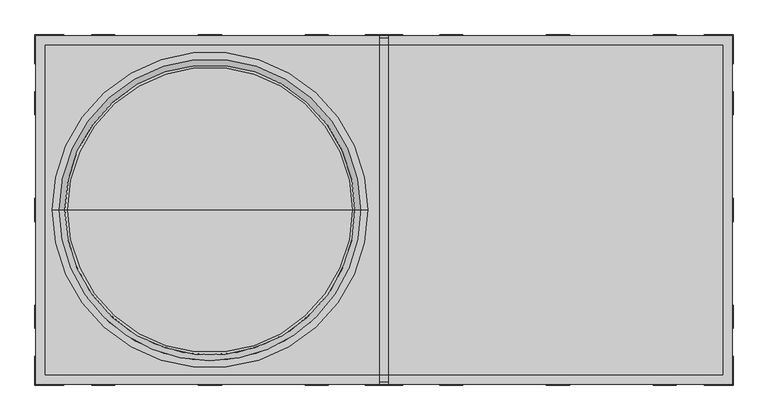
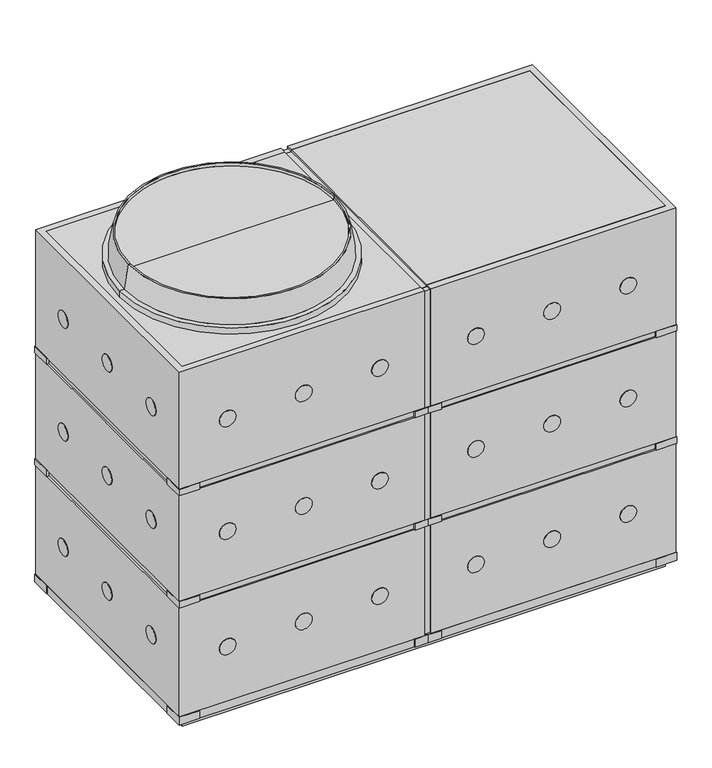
"""IFC4 building model written with IfcOpenShell, lengths in millimetres: cable carrier fitting geometry, КНС_КолодецПластиковыйСЛюком_1500-750-1125_281500-281500V0_DKC : Колодец кабельный 1500×750×1125_281500."""

from ifc_helpers import new_model, si_unit, point, frame, frame_2d, origin, place, context, project, spatial, polyline, circle_curve, trimmed, segment, composite_curve, outline, extrude, faceted_brep, source, transform, mapped, element, save
from ifc_brep_helpers import plane_surface, cylinder_surface, revolved_surface, advanced_brep


def cable_carrier_fitting_457583df(model_context):
    return source(origin(), model_context, "Body", "SolidModel", [
        extrude(outline(polyline([(1125.0, -730.0), (1125.0, 730.0), (1150.0, 730.0), (1150.0, 10.0), (1145.0, 10.0), (1145.0, -10.0), (1150.0, -10.0), (1150.0, -730.0), (1125.0, -730.0)])), frame((0.0, -355.0, 0.0), z_axis=(0.0, 1.0, 0.0), x_axis=(0.0, 0.0, 1.0)), (0.0, 0.0, 1.0), 710.0),
        advanced_brep(
        [(-375.0, 0.0, 1150.0), (-715.0, 0.0, 1150.0), (-35.0, 0.0, 1150.0), (-67.5121518, 0.0, 1234.0), (-682.4878482, 0.0, 1234.0), (-375.0, 0.0, 1234.0), (-67.5121518, 0.0, 1244.0), (-682.4878482, 0.0, 1244.0), (-62.5121518, 0.0, 1244.0), (-687.4878482, 0.0, 1244.0), (-50.0, 0.0, 1170.0), (-700.0, 0.0, 1170.0), (-35.0, 0.0, 1170.0), (-715.0, 0.0, 1170.0)],
        [
            (0, 1),
            (1, 2, circle_curve(frame((-375.0, 0.0, 1150.0), z_axis=(0.0, 0.0, -1.0), x_axis=(-1.0, 0.0, 0.0)), 340.0)),
            (2, 0),
            (2, 1, circle_curve(frame((-375.0, 0.0, 1150.0), z_axis=(0.0, 0.0, -1.0), x_axis=(-1.0, 0.0, 0.0)), 340.0)),
            (3, 4, circle_curve(frame((-375.0, 0.0, 1234.0), z_axis=(0.0, 0.0, 1.0), x_axis=(-1.0, 0.0, 0.0)), 307.4878482)),
            (4, 5),
            (5, 3),
            (4, 3, circle_curve(frame((-375.0, 0.0, 1234.0), z_axis=(0.0, 0.0, 1.0), x_axis=(-1.0, 0.0, 0.0)), 307.4878482)),
            (6, 7, circle_curve(frame((-375.0, 0.0, 1244.0), z_axis=(0.0, 0.0, 1.0), x_axis=(-1.0, 0.0, 0.0)), 307.4878482)),
            (7, 4),
            (3, 6),
            (7, 6, circle_curve(frame((-375.0, 0.0, 1244.0), z_axis=(0.0, 0.0, 1.0), x_axis=(-1.0, 0.0, 0.0)), 307.4878482)),
            (8, 9, circle_curve(frame((-375.0, 0.0, 1244.0), z_axis=(0.0, 0.0, 1.0), x_axis=(-1.0, 0.0, 0.0)), 312.4878482)),
            (9, 7),
            (6, 8),
            (9, 8, circle_curve(frame((-375.0, 0.0, 1244.0), z_axis=(0.0, 0.0, 1.0), x_axis=(-1.0, 0.0, 0.0)), 312.4878482)),
            (10, 11, circle_curve(frame((-375.0, 0.0, 1170.0), z_axis=(0.0, 0.0, 1.0), x_axis=(-1.0, 0.0, 0.0)), 325.0)),
            (11, 9),
            (8, 10),
            (11, 10, circle_curve(frame((-375.0, 0.0, 1170.0), z_axis=(0.0, 0.0, 1.0), x_axis=(-1.0, 0.0, 0.0)), 325.0)),
            (12, 13, circle_curve(frame((-375.0, 0.0, 1170.0), z_axis=(0.0, 0.0, 1.0), x_axis=(-1.0, 0.0, 0.0)), 340.0)),
            (13, 11),
            (10, 12),
            (13, 12, circle_curve(frame((-375.0, 0.0, 1170.0), z_axis=(0.0, 0.0, 1.0), x_axis=(-1.0, 0.0, 0.0)), 340.0)),
            (1, 13),
            (12, 2),
        ],
        [
            plane_surface(frame((-375.0, 0.0, 1150.0), z_axis=(0.0, 0.0, -1.0), x_axis=(-1.0, 0.0, 0.0))),
            plane_surface(frame((-375.0, 0.0, 1234.0), z_axis=(0.0, 0.0, 1.0), x_axis=(-1.0, 0.0, 0.0))),
            revolved_surface(polyline([(-682.4878481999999, 0.0, 1234.0), (-682.4878481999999, 0.0, 1244.0)]), (-375.0, 0.0, 2214.3150031), (0.0, 0.0, -1.0)),
            plane_surface(frame((-375.0, 0.0, 1244.0), z_axis=(0.0, 0.0, 1.0), x_axis=(-1.0, 0.0, 0.0))),
            revolved_surface(polyline([(-687.4878482, 0.0, 1244.0), (-700.0, 0.0, 1170.0)]), (-375.0, 0.0, 2214.3150031), (0.0, 0.0, -1.0)),
            plane_surface(frame((-375.0, 0.0, 1170.0), z_axis=(0.0, 0.0, 1.0), x_axis=(-1.0, 0.0, 0.0))),
            cylinder_surface(frame((-375.0, 0.0, 2214.3150031), z_axis=(0.0, 0.0, -1.0), x_axis=(-1.0, 0.0, 0.0)), 340.0),
        ],
        [
            (0, [[1, 2, 3]]),
            (0, [[-3, 4, -1]]),
            (1, [[5, 6, 7]]),
            (1, [[8, -7, -6]]),
            (2, [[9, 10, -5, 11]]),
            (2, [[12, -11, -8, -10]]),
            (3, [[13, 14, -9, 15]]),
            (3, [[16, -15, -12, -14]]),
            (4, [[17, 18, -13, 19]]),
            (4, [[20, -19, -16, -18]]),
            (5, [[21, 22, -17, 23]]),
            (5, [[24, -23, -20, -22]]),
            (6, [[-2, 25, -21, 26]]),
            (6, [[-4, -26, -24, -25]]),
        ],
    ),
        faceted_brep([(-750.0, 375.0, 1150.0), (-750.0, -375.0, 1150.0), (-10.0, -375.0, 1150.0), (-10.0, -355.0, 1150.0), (-730.0, -355.0, 1150.0), (-730.0, 355.0, 1150.0), (-10.0, 355.0, 1150.0), (-10.0, 375.0, 1150.0), (750.0, -375.0, 1150.0), (750.0, 375.0, 1150.0), (10.0, 375.0, 1150.0), (10.0, 355.0, 1150.0), (730.0, 355.0, 1150.0), (730.0, -355.0, 1150.0), (10.0, -355.0, 1150.0), (10.0, -375.0, 1150.0), (750.0, 375.0, 50.0), (750.0, -375.0, 50.0), (10.0, -375.0, 50.0), (10.0, -370.0, 50.0), (-10.0, -370.0, 50.0), (-10.0, -375.0, 50.0), (-750.0, -375.0, 50.0), (-750.0, 375.0, 50.0), (-10.0, 375.0, 50.0), (-10.0, 370.0, 50.0), (10.0, 370.0, 50.0), (10.0, 375.0, 50.0), (730.0, 355.0, 50.0), (-730.0, 355.0, 50.0), (-730.0, -355.0, 50.0), (730.0, -355.0, 50.0), (750.0, 375.0, 398.3333333), (10.0, 375.0, 398.3333333), (-750.0, 375.0, 398.3333333), (-10.0, 375.0, 398.3333333), (750.0, 375.0, 756.6666667), (750.0, 375.0, 418.3333333), (10.0, 375.0, 418.3333333), (10.0, 375.0, 756.6666667), (750.0, 375.0, 776.6666667), (10.0, 375.0, 776.6666667), (-750.0, 375.0, 418.3333333), (-750.0, 375.0, 756.6666667), (-10.0, 375.0, 756.6666667), (-10.0, 375.0, 418.3333333), (-750.0, 375.0, 776.6666667), (-10.0, 375.0, 776.6666667), (-750.0, -375.0, 776.6666667), (-750.0, -375.0, 398.3333333), (-750.0, -375.0, 418.3333333), (-750.0, -375.0, 756.6666667), (-10.0, -375.0, 776.6666667), (-10.0, -375.0, 398.3333333), (-10.0, -375.0, 418.3333333), (-10.0, -375.0, 756.6666667), (750.0, -375.0, 398.3333333), (10.0, -375.0, 398.3333333), (750.0, -375.0, 418.3333333), (750.0, -375.0, 756.6666667), (10.0, -375.0, 756.6666667), (10.0, -375.0, 418.3333333), (750.0, -375.0, 776.6666667), (10.0, -375.0, 776.6666667), (-745.0, 370.0, 398.3333333), (-745.0, -370.0, 398.3333333), (-745.0, -370.0, 418.3333333), (-745.0, 370.0, 418.3333333), (10.0, -370.0, 1145.0), (-10.0, -370.0, 1145.0), (-10.0, -370.0, 776.6666667), (-745.0, -370.0, 776.6666667), (-745.0, -370.0, 756.6666667), (-10.0, -370.0, 756.6666667), (-10.0, -370.0, 418.3333333), (-10.0, -370.0, 398.3333333), (10.0, -370.0, 398.3333333), (745.0, -370.0, 398.3333333), (745.0, -370.0, 418.3333333), (10.0, -370.0, 418.3333333), (10.0, -370.0, 756.6666667), (745.0, -370.0, 756.6666667), (745.0, -370.0, 776.6666667), (10.0, -370.0, 776.6666667), (745.0, 370.0, 398.3333333), (745.0, 370.0, 418.3333333), (-10.0, 370.0, 1145.0), (10.0, 370.0, 1145.0), (10.0, 370.0, 776.6666667), (745.0, 370.0, 776.6666667), (745.0, 370.0, 756.6666667), (10.0, 370.0, 756.6666667), (10.0, 370.0, 418.3333333), (10.0, 370.0, 398.3333333), (-10.0, 370.0, 398.3333333), (-10.0, 370.0, 418.3333333), (-10.0, 370.0, 756.6666667), (-745.0, 370.0, 756.6666667), (-745.0, 370.0, 776.6666667), (-10.0, 370.0, 776.6666667), (10.0, 355.0, 1145.0), (-10.0, 355.0, 1145.0), (-10.0, -355.0, 1145.0), (10.0, -355.0, 1145.0)], [[[0, 1, 2, 3, 4, 5, 6, 7]], [[8, 9, 10, 11, 12, 13, 14, 15]], [[16, 17, 18, 19, 20, 21, 22, 23, 24, 25, 26, 27], [28, 29, 30, 31]], [[32, 16, 27, 33]], [[23, 34, 35, 24]], [[36, 37, 38, 39]], [[9, 40, 41, 10]], [[42, 43, 44, 45]], [[46, 0, 7, 47]], [[1, 0, 46, 48]], [[23, 22, 49, 34]], [[42, 50, 51, 43]], [[1, 48, 52, 2]], [[49, 22, 21, 53]], [[51, 50, 54, 55]], [[17, 56, 57, 18]], [[58, 59, 60, 61]], [[62, 8, 15, 63]], [[9, 8, 62, 40]], [[17, 16, 32, 56]], [[58, 37, 36, 59]], [[64, 65, 66, 67]], [[68, 69, 70, 71, 72, 73, 74, 66, 65, 75, 20, 19, 76, 77, 78, 79, 80, 81, 82, 83]], [[78, 77, 84, 85]], [[86, 87, 88, 89, 90, 91, 92, 85, 84, 93, 26, 25, 94, 64, 67, 95, 96, 97, 98, 99]], [[65, 64, 94, 35, 34, 49, 53, 75]], [[84, 77, 76, 57, 56, 32, 33, 93]], [[67, 66, 74, 54, 50, 42, 45, 95]], [[78, 85, 92, 38, 37, 58, 61, 79]], [[5, 29, 28, 12, 11, 100, 101, 6]], [[29, 5, 4, 30]], [[30, 4, 3, 102, 103, 14, 13, 31]], [[12, 28, 31, 13]], [[97, 72, 71, 98]], [[82, 81, 90, 89]], [[72, 97, 96, 44, 43, 51, 55, 73]], [[90, 81, 80, 60, 59, 36, 39, 91]], [[98, 71, 70, 52, 48, 46, 47, 99]], [[82, 89, 88, 41, 40, 62, 63, 83]], [[76, 19, 18, 57]], [[80, 79, 61, 60]], [[68, 83, 63, 15, 14, 103]], [[88, 87, 100, 11, 10, 41]], [[92, 91, 39, 38]], [[26, 93, 33, 27]], [[70, 69, 102, 3, 2, 52]], [[74, 73, 55, 54]], [[20, 75, 53, 21]], [[94, 25, 24, 35]], [[96, 95, 45, 44]], [[86, 99, 47, 7, 6, 101]], [[69, 68, 103, 102]], [[87, 86, 101, 100]]]),
        faceted_brep([(750.0, 375.0, 50.0), (-750.0, 375.0, 50.0), (-750.0, -375.0, 50.0), (750.0, -375.0, 50.0), (-730.0, 355.0, 0.0), (730.0, 355.0, 0.0), (730.0, -355.0, 0.0), (-730.0, -355.0, 0.0), (750.0, 375.0, 25.0), (-750.0, 375.0, 25.0), (-750.0, -375.0, 25.0), (750.0, -375.0, 25.0), (-730.0, 355.0, 25.0), (730.0, 355.0, 25.0), (730.0, -355.0, 25.0), (-730.0, -355.0, 25.0)], [[[0, 1, 2, 3]], [[4, 5, 6, 7]], [[1, 0, 8, 9]], [[2, 1, 9, 10]], [[3, 2, 10, 11]], [[0, 3, 11, 8]], [[12, 13, 5, 4]], [[5, 13, 14, 6]], [[6, 14, 15, 7]], [[9, 8, 11, 10], [13, 12, 15, 14]], [[12, 4, 7, 15]]]),
        extrude(outline(composite_curve([segment(trimmed(circle_curve(frame_2d((952.0833333, -605.0)), 25.0), [point((952.0833333, -580.0))], [point((952.0833333, -630.0))], False, "CARTESIAN"), True, "CONTINUOUS"), segment(trimmed(circle_curve(frame_2d((952.0833333, -605.0)), 25.0), [point((952.0833333, -630.0))], [point((952.0833333, -580.0))], False, "CARTESIAN"), True, "CONTINUOUS")], self_intersect=False)), frame((0.0, 375.0, 0.0), z_axis=(0.0, 1.0, 0.0), x_axis=(0.0, 0.0, 1.0)), (0.0, 0.0, 1.0), 2.0),
        extrude(outline(composite_curve([segment(trimmed(circle_curve(frame_2d((952.0833333, -375.0)), 25.0), [point((952.0833333, -350.0))], [point((952.0833333, -400.0))], False, "CARTESIAN"), True, "CONTINUOUS"), segment(trimmed(circle_curve(frame_2d((952.0833333, -375.0)), 25.0), [point((952.0833333, -400.0))], [point((952.0833333, -350.0))], False, "CARTESIAN"), True, "CONTINUOUS")], self_intersect=False)), frame((0.0, 375.0, 0.0), z_axis=(0.0, 1.0, 0.0), x_axis=(0.0, 0.0, 1.0)), (0.0, 0.0, 1.0), 2.0),
        extrude(outline(composite_curve([segment(trimmed(circle_curve(frame_2d((952.0833333, -145.0)), 25.0), [point((952.0833333, -120.0))], [point((952.0833333, -170.0))], False, "CARTESIAN"), True, "CONTINUOUS"), segment(trimmed(circle_curve(frame_2d((952.0833333, -145.0)), 25.0), [point((952.0833333, -170.0))], [point((952.0833333, -120.0))], False, "CARTESIAN"), True, "CONTINUOUS")], self_intersect=False)), frame((0.0, 375.0, 0.0), z_axis=(0.0, 1.0, 0.0), x_axis=(0.0, 0.0, 1.0)), (0.0, 0.0, 1.0), 2.0),
        extrude(outline(composite_curve([segment(trimmed(circle_curve(frame_2d((952.0833333, 145.0)), 25.0), [point((952.0833333, 170.0))], [point((952.0833333, 120.0))], False, "CARTESIAN"), True, "CONTINUOUS"), segment(trimmed(circle_curve(frame_2d((952.0833333, 145.0)), 25.0), [point((952.0833333, 120.0))], [point((952.0833333, 170.0))], False, "CARTESIAN"), True, "CONTINUOUS")], self_intersect=False)), frame((0.0, 375.0, 0.0), z_axis=(0.0, 1.0, 0.0), x_axis=(0.0, 0.0, 1.0)), (0.0, 0.0, 1.0), 2.0),
        extrude(outline(composite_curve([segment(trimmed(circle_curve(frame_2d((952.0833333, 375.0)), 25.0), [point((952.0833333, 400.0))], [point((952.0833333, 350.0))], False, "CARTESIAN"), True, "CONTINUOUS"), segment(trimmed(circle_curve(frame_2d((952.0833333, 375.0)), 25.0), [point((952.0833333, 350.0))], [point((952.0833333, 400.0))], False, "CARTESIAN"), True, "CONTINUOUS")], self_intersect=False)), frame((0.0, 375.0, 0.0), z_axis=(0.0, 1.0, 0.0), x_axis=(0.0, 0.0, 1.0)), (0.0, 0.0, 1.0), 2.0),
        extrude(outline(composite_curve([segment(trimmed(circle_curve(frame_2d((952.0833333, 605.0)), 25.0), [point((952.0833333, 630.0))], [point((952.0833333, 580.0))], False, "CARTESIAN"), True, "CONTINUOUS"), segment(trimmed(circle_curve(frame_2d((952.0833333, 605.0)), 25.0), [point((952.0833333, 580.0))], [point((952.0833333, 630.0))], False, "CARTESIAN"), True, "CONTINUOUS")], self_intersect=False)), frame((0.0, 375.0, 0.0), z_axis=(0.0, 1.0, 0.0), x_axis=(0.0, 0.0, 1.0)), (0.0, 0.0, 1.0), 2.0),
        extrude(outline(composite_curve([segment(trimmed(circle_curve(frame_2d((592.5, -605.0)), 25.0), [point((592.5, -580.0))], [point((592.5, -630.0))], False, "CARTESIAN"), True, "CONTINUOUS"), segment(trimmed(circle_curve(frame_2d((592.5, -605.0)), 25.0), [point((592.5, -630.0))], [point((592.5, -580.0))], False, "CARTESIAN"), True, "CONTINUOUS")], self_intersect=False)), frame((0.0, 375.0, 0.0), z_axis=(0.0, 1.0, 0.0), x_axis=(0.0, 0.0, 1.0)), (0.0, 0.0, 1.0), 2.0),
        extrude(outline(composite_curve([segment(trimmed(circle_curve(frame_2d((592.5, -375.0)), 25.0), [point((592.5, -350.0))], [point((592.5, -400.0))], False, "CARTESIAN"), True, "CONTINUOUS"), segment(trimmed(circle_curve(frame_2d((592.5, -375.0)), 25.0), [point((592.5, -400.0))], [point((592.5, -350.0))], False, "CARTESIAN"), True, "CONTINUOUS")], self_intersect=False)), frame((0.0, 375.0, 0.0), z_axis=(0.0, 1.0, 0.0), x_axis=(0.0, 0.0, 1.0)), (0.0, 0.0, 1.0), 2.0),
        extrude(outline(composite_curve([segment(trimmed(circle_curve(frame_2d((592.5, -145.0)), 25.0), [point((592.5, -120.0))], [point((592.5, -170.0))], False, "CARTESIAN"), True, "CONTINUOUS"), segment(trimmed(circle_curve(frame_2d((592.5, -145.0)), 25.0), [point((592.5, -170.0))], [point((592.5, -120.0))], False, "CARTESIAN"), True, "CONTINUOUS")], self_intersect=False)), frame((0.0, 375.0, 0.0), z_axis=(0.0, 1.0, 0.0), x_axis=(0.0, 0.0, 1.0)), (0.0, 0.0, 1.0), 2.0),
        extrude(outline(composite_curve([segment(trimmed(circle_curve(frame_2d((592.5, 145.0)), 25.0), [point((592.5, 170.0))], [point((592.5, 120.0))], False, "CARTESIAN"), True, "CONTINUOUS"), segment(trimmed(circle_curve(frame_2d((592.5, 145.0)), 25.0), [point((592.5, 120.0))], [point((592.5, 170.0))], False, "CARTESIAN"), True, "CONTINUOUS")], self_intersect=False)), frame((0.0, 375.0, 0.0), z_axis=(0.0, 1.0, 0.0), x_axis=(0.0, 0.0, 1.0)), (0.0, 0.0, 1.0), 2.0),
        extrude(outline(composite_curve([segment(trimmed(circle_curve(frame_2d((592.5, 375.0)), 25.0), [point((592.5, 400.0))], [point((592.5, 350.0))], False, "CARTESIAN"), True, "CONTINUOUS"), segment(trimmed(circle_curve(frame_2d((592.5, 375.0)), 25.0), [point((592.5, 350.0))], [point((592.5, 400.0))], False, "CARTESIAN"), True, "CONTINUOUS")], self_intersect=False)), frame((0.0, 375.0, 0.0), z_axis=(0.0, 1.0, 0.0), x_axis=(0.0, 0.0, 1.0)), (0.0, 0.0, 1.0), 2.0),
        extrude(outline(composite_curve([segment(trimmed(circle_curve(frame_2d((592.5, 605.0)), 25.0), [point((592.5, 630.0))], [point((592.5, 580.0))], False, "CARTESIAN"), True, "CONTINUOUS"), segment(trimmed(circle_curve(frame_2d((592.5, 605.0)), 25.0), [point((592.5, 580.0))], [point((592.5, 630.0))], False, "CARTESIAN"), True, "CONTINUOUS")], self_intersect=False)), frame((0.0, 375.0, 0.0), z_axis=(0.0, 1.0, 0.0), x_axis=(0.0, 0.0, 1.0)), (0.0, 0.0, 1.0), 2.0),
        extrude(outline(composite_curve([segment(trimmed(circle_curve(frame_2d((224.1666667, -605.0)), 25.0), [point((224.1666667, -580.0))], [point((224.1666667, -630.0))], False, "CARTESIAN"), True, "CONTINUOUS"), segment(trimmed(circle_curve(frame_2d((224.1666667, -605.0)), 25.0), [point((224.1666667, -630.0))], [point((224.1666667, -580.0))], False, "CARTESIAN"), True, "CONTINUOUS")], self_intersect=False)), frame((0.0, 375.0, 0.0), z_axis=(0.0, 1.0, 0.0), x_axis=(0.0, 0.0, 1.0)), (0.0, 0.0, 1.0), 2.0),
        extrude(outline(composite_curve([segment(trimmed(circle_curve(frame_2d((224.1666667, -375.0)), 25.0), [point((224.1666667, -350.0))], [point((224.1666667, -400.0))], False, "CARTESIAN"), True, "CONTINUOUS"), segment(trimmed(circle_curve(frame_2d((224.1666667, -375.0)), 25.0), [point((224.1666667, -400.0))], [point((224.1666667, -350.0))], False, "CARTESIAN"), True, "CONTINUOUS")], self_intersect=False)), frame((0.0, 375.0, 0.0), z_axis=(0.0, 1.0, 0.0), x_axis=(0.0, 0.0, 1.0)), (0.0, 0.0, 1.0), 2.0),
        extrude(outline(composite_curve([segment(trimmed(circle_curve(frame_2d((224.1666667, -145.0)), 25.0), [point((224.1666667, -120.0))], [point((224.1666667, -170.0))], False, "CARTESIAN"), True, "CONTINUOUS"), segment(trimmed(circle_curve(frame_2d((224.1666667, -145.0)), 25.0), [point((224.1666667, -170.0))], [point((224.1666667, -120.0))], False, "CARTESIAN"), True, "CONTINUOUS")], self_intersect=False)), frame((0.0, 375.0, 0.0), z_axis=(0.0, 1.0, 0.0), x_axis=(0.0, 0.0, 1.0)), (0.0, 0.0, 1.0), 2.0),
        extrude(outline(composite_curve([segment(trimmed(circle_curve(frame_2d((224.1666667, 145.0)), 25.0), [point((224.1666667, 170.0))], [point((224.1666667, 120.0))], False, "CARTESIAN"), True, "CONTINUOUS"), segment(trimmed(circle_curve(frame_2d((224.1666667, 145.0)), 25.0), [point((224.1666667, 120.0))], [point((224.1666667, 170.0))], False, "CARTESIAN"), True, "CONTINUOUS")], self_intersect=False)), frame((0.0, 375.0, 0.0), z_axis=(0.0, 1.0, 0.0), x_axis=(0.0, 0.0, 1.0)), (0.0, 0.0, 1.0), 2.0),
        extrude(outline(composite_curve([segment(trimmed(circle_curve(frame_2d((224.1666667, 375.0)), 25.0), [point((224.1666667, 400.0))], [point((224.1666667, 350.0))], False, "CARTESIAN"), True, "CONTINUOUS"), segment(trimmed(circle_curve(frame_2d((224.1666667, 375.0)), 25.0), [point((224.1666667, 350.0))], [point((224.1666667, 400.0))], False, "CARTESIAN"), True, "CONTINUOUS")], self_intersect=False)), frame((0.0, 375.0, 0.0), z_axis=(0.0, 1.0, 0.0), x_axis=(0.0, 0.0, 1.0)), (0.0, 0.0, 1.0), 2.0),
        extrude(outline(composite_curve([segment(trimmed(circle_curve(frame_2d((224.1666667, 605.0)), 25.0), [point((224.1666667, 630.0))], [point((224.1666667, 580.0))], False, "CARTESIAN"), True, "CONTINUOUS"), segment(trimmed(circle_curve(frame_2d((224.1666667, 605.0)), 25.0), [point((224.1666667, 580.0))], [point((224.1666667, 630.0))], False, "CARTESIAN"), True, "CONTINUOUS")], self_intersect=False)), frame((0.0, 375.0, 0.0), z_axis=(0.0, 1.0, 0.0), x_axis=(0.0, 0.0, 1.0)), (0.0, 0.0, 1.0), 2.0),
        extrude(outline(composite_curve([segment(trimmed(circle_curve(frame_2d((952.0833333, -605.0)), 25.0), [point((952.0833333, -630.0))], [point((952.0833333, -580.0))], False, "CARTESIAN"), True, "CONTINUOUS"), segment(trimmed(circle_curve(frame_2d((952.0833333, -605.0)), 25.0), [point((952.0833333, -580.0))], [point((952.0833333, -630.0))], False, "CARTESIAN"), True, "CONTINUOUS")], self_intersect=False)), frame((0.0, -377.0, 0.0), z_axis=(0.0, 1.0, 0.0), x_axis=(0.0, 0.0, 1.0)), (0.0, 0.0, 1.0), 2.0),
        extrude(outline(composite_curve([segment(trimmed(circle_curve(frame_2d((952.0833333, -375.0)), 25.0), [point((952.0833333, -400.0))], [point((952.0833333, -350.0))], False, "CARTESIAN"), True, "CONTINUOUS"), segment(trimmed(circle_curve(frame_2d((952.0833333, -375.0)), 25.0), [point((952.0833333, -350.0))], [point((952.0833333, -400.0))], False, "CARTESIAN"), True, "CONTINUOUS")], self_intersect=False)), frame((0.0, -377.0, 0.0), z_axis=(0.0, 1.0, 0.0), x_axis=(0.0, 0.0, 1.0)), (0.0, 0.0, 1.0), 2.0),
        extrude(outline(composite_curve([segment(trimmed(circle_curve(frame_2d((952.0833333, -145.0)), 25.0), [point((952.0833333, -170.0))], [point((952.0833333, -120.0))], False, "CARTESIAN"), True, "CONTINUOUS"), segment(trimmed(circle_curve(frame_2d((952.0833333, -145.0)), 25.0), [point((952.0833333, -120.0))], [point((952.0833333, -170.0))], False, "CARTESIAN"), True, "CONTINUOUS")], self_intersect=False)), frame((0.0, -377.0, 0.0), z_axis=(0.0, 1.0, 0.0), x_axis=(0.0, 0.0, 1.0)), (0.0, 0.0, 1.0), 2.0),
        extrude(outline(composite_curve([segment(trimmed(circle_curve(frame_2d((952.0833333, 145.0)), 25.0), [point((952.0833333, 120.0))], [point((952.0833333, 170.0))], False, "CARTESIAN"), True, "CONTINUOUS"), segment(trimmed(circle_curve(frame_2d((952.0833333, 145.0)), 25.0), [point((952.0833333, 170.0))], [point((952.0833333, 120.0))], False, "CARTESIAN"), True, "CONTINUOUS")], self_intersect=False)), frame((0.0, -377.0, 0.0), z_axis=(0.0, 1.0, 0.0), x_axis=(0.0, 0.0, 1.0)), (0.0, 0.0, 1.0), 2.0),
        extrude(outline(composite_curve([segment(trimmed(circle_curve(frame_2d((952.0833333, 375.0)), 25.0), [point((952.0833333, 350.0))], [point((952.0833333, 400.0))], False, "CARTESIAN"), True, "CONTINUOUS"), segment(trimmed(circle_curve(frame_2d((952.0833333, 375.0)), 25.0), [point((952.0833333, 400.0))], [point((952.0833333, 350.0))], False, "CARTESIAN"), True, "CONTINUOUS")], self_intersect=False)), frame((0.0, -377.0, 0.0), z_axis=(0.0, 1.0, 0.0), x_axis=(0.0, 0.0, 1.0)), (0.0, 0.0, 1.0), 2.0),
        extrude(outline(composite_curve([segment(trimmed(circle_curve(frame_2d((952.0833333, 605.0)), 25.0), [point((952.0833333, 580.0))], [point((952.0833333, 630.0))], False, "CARTESIAN"), True, "CONTINUOUS"), segment(trimmed(circle_curve(frame_2d((952.0833333, 605.0)), 25.0), [point((952.0833333, 630.0))], [point((952.0833333, 580.0))], False, "CARTESIAN"), True, "CONTINUOUS")], self_intersect=False)), frame((0.0, -377.0, 0.0), z_axis=(0.0, 1.0, 0.0), x_axis=(0.0, 0.0, 1.0)), (0.0, 0.0, 1.0), 2.0),
        extrude(outline(composite_curve([segment(trimmed(circle_curve(frame_2d((592.5, -605.0)), 25.0), [point((592.5, -630.0))], [point((592.5, -580.0))], False, "CARTESIAN"), True, "CONTINUOUS"), segment(trimmed(circle_curve(frame_2d((592.5, -605.0)), 25.0), [point((592.5, -580.0))], [point((592.5, -630.0))], False, "CARTESIAN"), True, "CONTINUOUS")], self_intersect=False)), frame((0.0, -377.0, 0.0), z_axis=(0.0, 1.0, 0.0), x_axis=(0.0, 0.0, 1.0)), (0.0, 0.0, 1.0), 2.0),
        extrude(outline(composite_curve([segment(trimmed(circle_curve(frame_2d((592.5, -375.0)), 25.0), [point((592.5, -400.0))], [point((592.5, -350.0))], False, "CARTESIAN"), True, "CONTINUOUS"), segment(trimmed(circle_curve(frame_2d((592.5, -375.0)), 25.0), [point((592.5, -350.0))], [point((592.5, -400.0))], False, "CARTESIAN"), True, "CONTINUOUS")], self_intersect=False)), frame((0.0, -377.0, 0.0), z_axis=(0.0, 1.0, 0.0), x_axis=(0.0, 0.0, 1.0)), (0.0, 0.0, 1.0), 2.0),
        extrude(outline(composite_curve([segment(trimmed(circle_curve(frame_2d((592.5, -145.0)), 25.0), [point((592.5, -170.0))], [point((592.5, -120.0))], False, "CARTESIAN"), True, "CONTINUOUS"), segment(trimmed(circle_curve(frame_2d((592.5, -145.0)), 25.0), [point((592.5, -120.0))], [point((592.5, -170.0))], False, "CARTESIAN"), True, "CONTINUOUS")], self_intersect=False)), frame((0.0, -377.0, 0.0), z_axis=(0.0, 1.0, 0.0), x_axis=(0.0, 0.0, 1.0)), (0.0, 0.0, 1.0), 2.0),
        extrude(outline(composite_curve([segment(trimmed(circle_curve(frame_2d((592.5, 145.0)), 25.0), [point((592.5, 120.0))], [point((592.5, 170.0))], False, "CARTESIAN"), True, "CONTINUOUS"), segment(trimmed(circle_curve(frame_2d((592.5, 145.0)), 25.0), [point((592.5, 170.0))], [point((592.5, 120.0))], False, "CARTESIAN"), True, "CONTINUOUS")], self_intersect=False)), frame((0.0, -377.0, 0.0), z_axis=(0.0, 1.0, 0.0), x_axis=(0.0, 0.0, 1.0)), (0.0, 0.0, 1.0), 2.0),
        extrude(outline(composite_curve([segment(trimmed(circle_curve(frame_2d((592.5, 375.0)), 25.0), [point((592.5, 350.0))], [point((592.5, 400.0))], False, "CARTESIAN"), True, "CONTINUOUS"), segment(trimmed(circle_curve(frame_2d((592.5, 375.0)), 25.0), [point((592.5, 400.0))], [point((592.5, 350.0))], False, "CARTESIAN"), True, "CONTINUOUS")], self_intersect=False)), frame((0.0, -377.0, 0.0), z_axis=(0.0, 1.0, 0.0), x_axis=(0.0, 0.0, 1.0)), (0.0, 0.0, 1.0), 2.0),
        extrude(outline(composite_curve([segment(trimmed(circle_curve(frame_2d((592.5, 605.0)), 25.0), [point((592.5, 580.0))], [point((592.5, 630.0))], False, "CARTESIAN"), True, "CONTINUOUS"), segment(trimmed(circle_curve(frame_2d((592.5, 605.0)), 25.0), [point((592.5, 630.0))], [point((592.5, 580.0))], False, "CARTESIAN"), True, "CONTINUOUS")], self_intersect=False)), frame((0.0, -377.0, 0.0), z_axis=(0.0, 1.0, 0.0), x_axis=(0.0, 0.0, 1.0)), (0.0, 0.0, 1.0), 2.0),
        extrude(outline(composite_curve([segment(trimmed(circle_curve(frame_2d((224.1666667, -605.0)), 25.0), [point((224.1666667, -630.0))], [point((224.1666667, -580.0))], False, "CARTESIAN"), True, "CONTINUOUS"), segment(trimmed(circle_curve(frame_2d((224.1666667, -605.0)), 25.0), [point((224.1666667, -580.0))], [point((224.1666667, -630.0))], False, "CARTESIAN"), True, "CONTINUOUS")], self_intersect=False)), frame((0.0, -377.0, 0.0), z_axis=(0.0, 1.0, 0.0), x_axis=(0.0, 0.0, 1.0)), (0.0, 0.0, 1.0), 2.0),
        extrude(outline(composite_curve([segment(trimmed(circle_curve(frame_2d((224.1666667, -375.0)), 25.0), [point((224.1666667, -400.0))], [point((224.1666667, -350.0))], False, "CARTESIAN"), True, "CONTINUOUS"), segment(trimmed(circle_curve(frame_2d((224.1666667, -375.0)), 25.0), [point((224.1666667, -350.0))], [point((224.1666667, -400.0))], False, "CARTESIAN"), True, "CONTINUOUS")], self_intersect=False)), frame((0.0, -377.0, 0.0), z_axis=(0.0, 1.0, 0.0), x_axis=(0.0, 0.0, 1.0)), (0.0, 0.0, 1.0), 2.0),
        extrude(outline(composite_curve([segment(trimmed(circle_curve(frame_2d((224.1666667, -145.0)), 25.0), [point((224.1666667, -170.0))], [point((224.1666667, -120.0))], False, "CARTESIAN"), True, "CONTINUOUS"), segment(trimmed(circle_curve(frame_2d((224.1666667, -145.0)), 25.0), [point((224.1666667, -120.0))], [point((224.1666667, -170.0))], False, "CARTESIAN"), True, "CONTINUOUS")], self_intersect=False)), frame((0.0, -377.0, 0.0), z_axis=(0.0, 1.0, 0.0), x_axis=(0.0, 0.0, 1.0)), (0.0, 0.0, 1.0), 2.0),
        extrude(outline(composite_curve([segment(trimmed(circle_curve(frame_2d((224.1666667, 145.0)), 25.0), [point((224.1666667, 120.0))], [point((224.1666667, 170.0))], False, "CARTESIAN"), True, "CONTINUOUS"), segment(trimmed(circle_curve(frame_2d((224.1666667, 145.0)), 25.0), [point((224.1666667, 170.0))], [point((224.1666667, 120.0))], False, "CARTESIAN"), True, "CONTINUOUS")], self_intersect=False)), frame((0.0, -377.0, 0.0), z_axis=(0.0, 1.0, 0.0), x_axis=(0.0, 0.0, 1.0)), (0.0, 0.0, 1.0), 2.0),
        extrude(outline(composite_curve([segment(trimmed(circle_curve(frame_2d((224.1666667, 375.0)), 25.0), [point((224.1666667, 350.0))], [point((224.1666667, 400.0))], False, "CARTESIAN"), True, "CONTINUOUS"), segment(trimmed(circle_curve(frame_2d((224.1666667, 375.0)), 25.0), [point((224.1666667, 400.0))], [point((224.1666667, 350.0))], False, "CARTESIAN"), True, "CONTINUOUS")], self_intersect=False)), frame((0.0, -377.0, 0.0), z_axis=(0.0, 1.0, 0.0), x_axis=(0.0, 0.0, 1.0)), (0.0, 0.0, 1.0), 2.0),
        extrude(outline(composite_curve([segment(trimmed(circle_curve(frame_2d((224.1666667, 605.0)), 25.0), [point((224.1666667, 580.0))], [point((224.1666667, 630.0))], False, "CARTESIAN"), True, "CONTINUOUS"), segment(trimmed(circle_curve(frame_2d((224.1666667, 605.0)), 25.0), [point((224.1666667, 630.0))], [point((224.1666667, 580.0))], False, "CARTESIAN"), True, "CONTINUOUS")], self_intersect=False)), frame((0.0, -377.0, 0.0), z_axis=(0.0, 1.0, 0.0), x_axis=(0.0, 0.0, 1.0)), (0.0, 0.0, 1.0), 2.0),
        extrude(outline(polyline([(752.0, -315.0), (752.0, -377.0), (690.0, -377.0), (690.0, -356.0), (731.0, -356.0), (731.0, -315.0), (752.0, -315.0)])), frame((0.0, 0.0, 756.6666667), z_axis=(0.0, 0.0, 1.0), x_axis=(1.0, 0.0, 0.0)), (0.0, 0.0, 1.0), 20.0),
        extrude(outline(polyline([(-752.0, -315.0), (-731.0, -315.0), (-731.0, -356.0), (-690.0, -356.0), (-690.0, -377.0), (-752.0, -377.0), (-752.0, -315.0)])), frame((0.0, 0.0, 756.6666667), z_axis=(0.0, 0.0, 1.0), x_axis=(1.0, 0.0, 0.0)), (0.0, 0.0, 1.0), 20.0),
        extrude(outline(polyline([(752.0, 315.0), (731.0, 315.0), (731.0, 356.0), (690.0, 356.0), (690.0, 377.0), (752.0, 377.0), (752.0, 315.0)])), frame((0.0, 0.0, 756.6666667), z_axis=(0.0, 0.0, 1.0), x_axis=(1.0, 0.0, 0.0)), (0.0, 0.0, 1.0), 20.0),
        extrude(outline(polyline([(-752.0, 315.0), (-752.0, 377.0), (-690.0, 377.0), (-690.0, 356.0), (-731.0, 356.0), (-731.0, 315.0), (-752.0, 315.0)])), frame((0.0, 0.0, 756.6666667), z_axis=(0.0, 0.0, 1.0), x_axis=(1.0, 0.0, 0.0)), (0.0, 0.0, 1.0), 20.0),
        extrude(outline(polyline([(40.0, -355.0), (40.0, -377.0), (0.0, -377.0), (-40.0, -377.0), (-40.0, -355.0), (0.0, -355.0), (40.0, -355.0)]), holes=[polyline([(10.0, -375.0), (10.0, -370.0), (-10.0, -370.0), (-10.0, -375.0), (10.0, -375.0)])]), frame((0.0, 0.0, 756.6666667), z_axis=(0.0, 0.0, 1.0), x_axis=(1.0, 0.0, 0.0)), (0.0, 0.0, 1.0), 20.0),
        extrude(outline(polyline([(40.0, 355.0), (0.0, 355.0), (-40.0, 355.0), (-40.0, 377.0), (0.0, 377.0), (40.0, 377.0), (40.0, 355.0)]), holes=[polyline([(10.0, 370.0), (10.0, 375.0), (-10.0, 375.0), (-10.0, 370.0), (10.0, 370.0)])]), frame((0.0, 0.0, 756.6666667), z_axis=(0.0, 0.0, 1.0), x_axis=(1.0, 0.0, 0.0)), (0.0, 0.0, 1.0), 20.0),
        extrude(outline(polyline([(752.0, -315.0), (752.0, -377.0), (690.0, -377.0), (690.0, -356.0), (731.0, -356.0), (731.0, -315.0), (752.0, -315.0)])), frame((0.0, 0.0, 398.3333333), z_axis=(0.0, 0.0, 1.0), x_axis=(1.0, 0.0, 0.0)), (0.0, 0.0, 1.0), 20.0),
        extrude(outline(polyline([(-752.0, -315.0), (-731.0, -315.0), (-731.0, -356.0), (-690.0, -356.0), (-690.0, -377.0), (-752.0, -377.0), (-752.0, -315.0)])), frame((0.0, 0.0, 398.3333333), z_axis=(0.0, 0.0, 1.0), x_axis=(1.0, 0.0, 0.0)), (0.0, 0.0, 1.0), 20.0),
        extrude(outline(polyline([(752.0, 315.0), (731.0, 315.0), (731.0, 356.0), (690.0, 356.0), (690.0, 377.0), (752.0, 377.0), (752.0, 315.0)])), frame((0.0, 0.0, 398.3333333), z_axis=(0.0, 0.0, 1.0), x_axis=(1.0, 0.0, 0.0)), (0.0, 0.0, 1.0), 20.0),
        extrude(outline(polyline([(-752.0, 315.0), (-752.0, 377.0), (-690.0, 377.0), (-690.0, 356.0), (-731.0, 356.0), (-731.0, 315.0), (-752.0, 315.0)])), frame((0.0, 0.0, 398.3333333), z_axis=(0.0, 0.0, 1.0), x_axis=(1.0, 0.0, 0.0)), (0.0, 0.0, 1.0), 20.0),
        extrude(outline(polyline([(40.0, -355.0), (40.0, -377.0), (0.0, -377.0), (-40.0, -377.0), (-40.0, -355.0), (0.0, -355.0), (40.0, -355.0)]), holes=[polyline([(10.0, -375.0), (10.0, -370.0), (-10.0, -370.0), (-10.0, -375.0), (10.0, -375.0)])]), frame((0.0, 0.0, 398.3333333), z_axis=(0.0, 0.0, 1.0), x_axis=(1.0, 0.0, 0.0)), (0.0, 0.0, 1.0), 20.0),
        extrude(outline(polyline([(40.0, 355.0), (0.0, 355.0), (-40.0, 355.0), (-40.0, 377.0), (0.0, 377.0), (40.0, 377.0), (40.0, 355.0)]), holes=[polyline([(10.0, 370.0), (10.0, 375.0), (-10.0, 375.0), (-10.0, 370.0), (10.0, 370.0)])]), frame((0.0, 0.0, 398.3333333), z_axis=(0.0, 0.0, 1.0), x_axis=(1.0, 0.0, 0.0)), (0.0, 0.0, 1.0), 20.0),
        extrude(outline(composite_curve([segment(trimmed(circle_curve(frame_2d((-230.0, 592.5)), 25.0), [point((-255.0, 592.5))], [point((-205.0, 592.5))], False, "CARTESIAN"), True, "CONTINUOUS"), segment(trimmed(circle_curve(frame_2d((-230.0, 592.5)), 25.0), [point((-205.0, 592.5))], [point((-255.0, 592.5))], False, "CARTESIAN"), True, "CONTINUOUS")], self_intersect=False)), frame((-752.0, 0.0, 0.0), z_axis=(1.0, 0.0, 0.0), x_axis=(0.0, 1.0, 0.0)), (0.0, 0.0, 1.0), 2.0),
        extrude(outline(composite_curve([segment(trimmed(circle_curve(frame_2d((0.0, 592.5)), 25.0), [point((-25.0, 592.5))], [point((25.0, 592.5))], False, "CARTESIAN"), True, "CONTINUOUS"), segment(trimmed(circle_curve(frame_2d((0.0, 592.5)), 25.0), [point((25.0, 592.5))], [point((-25.0, 592.5))], False, "CARTESIAN"), True, "CONTINUOUS")], self_intersect=False)), frame((-752.0, 0.0, 0.0), z_axis=(1.0, 0.0, 0.0), x_axis=(0.0, 1.0, 0.0)), (0.0, 0.0, 1.0), 2.0),
        extrude(outline(composite_curve([segment(trimmed(circle_curve(frame_2d((230.0, 592.5)), 25.0), [point((205.0, 592.5))], [point((255.0, 592.5))], False, "CARTESIAN"), True, "CONTINUOUS"), segment(trimmed(circle_curve(frame_2d((230.0, 592.5)), 25.0), [point((255.0, 592.5))], [point((205.0, 592.5))], False, "CARTESIAN"), True, "CONTINUOUS")], self_intersect=False)), frame((-752.0, 0.0, 0.0), z_axis=(1.0, 0.0, 0.0), x_axis=(0.0, 1.0, 0.0)), (0.0, 0.0, 1.0), 2.0),
        extrude(outline(composite_curve([segment(trimmed(circle_curve(frame_2d((-230.0, 224.1666667)), 25.0), [point((-255.0, 224.1666667))], [point((-205.0, 224.1666667))], False, "CARTESIAN"), True, "CONTINUOUS"), segment(trimmed(circle_curve(frame_2d((-230.0, 224.1666667)), 25.0), [point((-205.0, 224.1666667))], [point((-255.0, 224.1666667))], False, "CARTESIAN"), True, "CONTINUOUS")], self_intersect=False)), frame((-752.0, 0.0, 0.0), z_axis=(1.0, 0.0, 0.0), x_axis=(0.0, 1.0, 0.0)), (0.0, 0.0, 1.0), 2.0),
        extrude(outline(composite_curve([segment(trimmed(circle_curve(frame_2d((0.0, 224.1666667)), 25.0), [point((-25.0, 224.1666667))], [point((25.0, 224.1666667))], False, "CARTESIAN"), True, "CONTINUOUS"), segment(trimmed(circle_curve(frame_2d((0.0, 224.1666667)), 25.0), [point((25.0, 224.1666667))], [point((-25.0, 224.1666667))], False, "CARTESIAN"), True, "CONTINUOUS")], self_intersect=False)), frame((-752.0, 0.0, 0.0), z_axis=(1.0, 0.0, 0.0), x_axis=(0.0, 1.0, 0.0)), (0.0, 0.0, 1.0), 2.0),
        extrude(outline(composite_curve([segment(trimmed(circle_curve(frame_2d((230.0, 224.1666667)), 25.0), [point((205.0, 224.1666667))], [point((255.0, 224.1666667))], False, "CARTESIAN"), True, "CONTINUOUS"), segment(trimmed(circle_curve(frame_2d((230.0, 224.1666667)), 25.0), [point((255.0, 224.1666667))], [point((205.0, 224.1666667))], False, "CARTESIAN"), True, "CONTINUOUS")], self_intersect=False)), frame((-752.0, 0.0, 0.0), z_axis=(1.0, 0.0, 0.0), x_axis=(0.0, 1.0, 0.0)), (0.0, 0.0, 1.0), 2.0),
        extrude(outline(composite_curve([segment(trimmed(circle_curve(frame_2d((-230.0, 952.0833333)), 25.0), [point((-255.0, 952.0833333))], [point((-205.0, 952.0833333))], False, "CARTESIAN"), True, "CONTINUOUS"), segment(trimmed(circle_curve(frame_2d((-230.0, 952.0833333)), 25.0), [point((-205.0, 952.0833333))], [point((-255.0, 952.0833333))], False, "CARTESIAN"), True, "CONTINUOUS")], self_intersect=False)), frame((-752.0, 0.0, 0.0), z_axis=(1.0, 0.0, 0.0), x_axis=(0.0, 1.0, 0.0)), (0.0, 0.0, 1.0), 2.0),
        extrude(outline(composite_curve([segment(trimmed(circle_curve(frame_2d((0.0, 952.0833333)), 25.0), [point((-25.0, 952.0833333))], [point((25.0, 952.0833333))], False, "CARTESIAN"), True, "CONTINUOUS"), segment(trimmed(circle_curve(frame_2d((0.0, 952.0833333)), 25.0), [point((25.0, 952.0833333))], [point((-25.0, 952.0833333))], False, "CARTESIAN"), True, "CONTINUOUS")], self_intersect=False)), frame((-752.0, 0.0, 0.0), z_axis=(1.0, 0.0, 0.0), x_axis=(0.0, 1.0, 0.0)), (0.0, 0.0, 1.0), 2.0),
        extrude(outline(composite_curve([segment(trimmed(circle_curve(frame_2d((230.0, 952.0833333)), 25.0), [point((205.0, 952.0833333))], [point((255.0, 952.0833333))], False, "CARTESIAN"), True, "CONTINUOUS"), segment(trimmed(circle_curve(frame_2d((230.0, 952.0833333)), 25.0), [point((255.0, 952.0833333))], [point((205.0, 952.0833333))], False, "CARTESIAN"), True, "CONTINUOUS")], self_intersect=False)), frame((-752.0, 0.0, 0.0), z_axis=(1.0, 0.0, 0.0), x_axis=(0.0, 1.0, 0.0)), (0.0, 0.0, 1.0), 2.0),
        extrude(outline(composite_curve([segment(trimmed(circle_curve(frame_2d((-230.0, 592.5)), 25.0), [point((-255.0, 592.5))], [point((-205.0, 592.5))], False, "CARTESIAN"), True, "CONTINUOUS"), segment(trimmed(circle_curve(frame_2d((-230.0, 592.5)), 25.0), [point((-205.0, 592.5))], [point((-255.0, 592.5))], False, "CARTESIAN"), True, "CONTINUOUS")], self_intersect=False)), frame((750.0, 0.0, 0.0), z_axis=(1.0, 0.0, 0.0), x_axis=(0.0, 1.0, 0.0)), (0.0, 0.0, 1.0), 2.0),
        extrude(outline(composite_curve([segment(trimmed(circle_curve(frame_2d((0.0, 592.5)), 25.0), [point((-25.0, 592.5))], [point((25.0, 592.5))], False, "CARTESIAN"), True, "CONTINUOUS"), segment(trimmed(circle_curve(frame_2d((0.0, 592.5)), 25.0), [point((25.0, 592.5))], [point((-25.0, 592.5))], False, "CARTESIAN"), True, "CONTINUOUS")], self_intersect=False)), frame((750.0, 0.0, 0.0), z_axis=(1.0, 0.0, 0.0), x_axis=(0.0, 1.0, 0.0)), (0.0, 0.0, 1.0), 2.0),
        extrude(outline(composite_curve([segment(trimmed(circle_curve(frame_2d((230.0, 592.5)), 25.0), [point((205.0, 592.5))], [point((255.0, 592.5))], False, "CARTESIAN"), True, "CONTINUOUS"), segment(trimmed(circle_curve(frame_2d((230.0, 592.5)), 25.0), [point((255.0, 592.5))], [point((205.0, 592.5))], False, "CARTESIAN"), True, "CONTINUOUS")], self_intersect=False)), frame((750.0, 0.0, 0.0), z_axis=(1.0, 0.0, 0.0), x_axis=(0.0, 1.0, 0.0)), (0.0, 0.0, 1.0), 2.0),
        extrude(outline(composite_curve([segment(trimmed(circle_curve(frame_2d((-230.0, 224.1666667)), 25.0), [point((-255.0, 224.1666667))], [point((-205.0, 224.1666667))], False, "CARTESIAN"), True, "CONTINUOUS"), segment(trimmed(circle_curve(frame_2d((-230.0, 224.1666667)), 25.0), [point((-205.0, 224.1666667))], [point((-255.0, 224.1666667))], False, "CARTESIAN"), True, "CONTINUOUS")], self_intersect=False)), frame((750.0, 0.0, 0.0), z_axis=(1.0, 0.0, 0.0), x_axis=(0.0, 1.0, 0.0)), (0.0, 0.0, 1.0), 2.0),
        extrude(outline(composite_curve([segment(trimmed(circle_curve(frame_2d((0.0, 224.1666667)), 25.0), [point((-25.0, 224.1666667))], [point((25.0, 224.1666667))], False, "CARTESIAN"), True, "CONTINUOUS"), segment(trimmed(circle_curve(frame_2d((0.0, 224.1666667)), 25.0), [point((25.0, 224.1666667))], [point((-25.0, 224.1666667))], False, "CARTESIAN"), True, "CONTINUOUS")], self_intersect=False)), frame((750.0, 0.0, 0.0), z_axis=(1.0, 0.0, 0.0), x_axis=(0.0, 1.0, 0.0)), (0.0, 0.0, 1.0), 2.0),
        extrude(outline(composite_curve([segment(trimmed(circle_curve(frame_2d((230.0, 224.1666667)), 25.0), [point((205.0, 224.1666667))], [point((255.0, 224.1666667))], False, "CARTESIAN"), True, "CONTINUOUS"), segment(trimmed(circle_curve(frame_2d((230.0, 224.1666667)), 25.0), [point((255.0, 224.1666667))], [point((205.0, 224.1666667))], False, "CARTESIAN"), True, "CONTINUOUS")], self_intersect=False)), frame((750.0, 0.0, 0.0), z_axis=(1.0, 0.0, 0.0), x_axis=(0.0, 1.0, 0.0)), (0.0, 0.0, 1.0), 2.0),
        extrude(outline(composite_curve([segment(trimmed(circle_curve(frame_2d((-230.0, 952.0833333)), 25.0), [point((-255.0, 952.0833333))], [point((-205.0, 952.0833333))], False, "CARTESIAN"), True, "CONTINUOUS"), segment(trimmed(circle_curve(frame_2d((-230.0, 952.0833333)), 25.0), [point((-205.0, 952.0833333))], [point((-255.0, 952.0833333))], False, "CARTESIAN"), True, "CONTINUOUS")], self_intersect=False)), frame((750.0, 0.0, 0.0), z_axis=(1.0, 0.0, 0.0), x_axis=(0.0, 1.0, 0.0)), (0.0, 0.0, 1.0), 2.0),
        extrude(outline(composite_curve([segment(trimmed(circle_curve(frame_2d((0.0, 952.0833333)), 25.0), [point((-25.0, 952.0833333))], [point((25.0, 952.0833333))], False, "CARTESIAN"), True, "CONTINUOUS"), segment(trimmed(circle_curve(frame_2d((0.0, 952.0833333)), 25.0), [point((25.0, 952.0833333))], [point((-25.0, 952.0833333))], False, "CARTESIAN"), True, "CONTINUOUS")], self_intersect=False)), frame((750.0, 0.0, 0.0), z_axis=(1.0, 0.0, 0.0), x_axis=(0.0, 1.0, 0.0)), (0.0, 0.0, 1.0), 2.0),
        extrude(outline(composite_curve([segment(trimmed(circle_curve(frame_2d((230.0, 952.0833333)), 25.0), [point((205.0, 952.0833333))], [point((255.0, 952.0833333))], False, "CARTESIAN"), True, "CONTINUOUS"), segment(trimmed(circle_curve(frame_2d((230.0, 952.0833333)), 25.0), [point((255.0, 952.0833333))], [point((205.0, 952.0833333))], False, "CARTESIAN"), True, "CONTINUOUS")], self_intersect=False)), frame((750.0, 0.0, 0.0), z_axis=(1.0, 0.0, 0.0), x_axis=(0.0, 1.0, 0.0)), (0.0, 0.0, 1.0), 2.0),
        extrude(outline(polyline([(-752.0, 315.0), (-752.0, 377.0), (-690.0, 377.0), (-690.0, 355.0), (-730.0, 355.0), (-730.0, 315.0), (-752.0, 315.0)])), frame((0.0, 0.0, 25.0), z_axis=(0.0, 0.0, 1.0), x_axis=(1.0, 0.0, 0.0)), (0.0, 0.0, 1.0), 25.0),
        extrude(outline(polyline([(752.0, 315.0), (730.0, 315.0), (730.0, 355.0), (690.0, 355.0), (690.0, 377.0), (752.0, 377.0), (752.0, 315.0)])), frame((0.0, 0.0, 25.0), z_axis=(0.0, 0.0, 1.0), x_axis=(1.0, 0.0, 0.0)), (0.0, 0.0, 1.0), 25.0),
        extrude(outline(polyline([(-752.0, -315.0), (-730.0, -315.0), (-730.0, -355.0), (-690.0, -355.0), (-690.0, -377.0), (-752.0, -377.0), (-752.0, -315.0)])), frame((0.0, 0.0, 25.0), z_axis=(0.0, 0.0, 1.0), x_axis=(1.0, 0.0, 0.0)), (0.0, 0.0, 1.0), 25.0),
        extrude(outline(polyline([(752.0, -315.0), (752.0, -377.0), (690.0, -377.0), (690.0, -355.0), (730.0, -355.0), (730.0, -315.0), (752.0, -315.0)])), frame((0.0, 0.0, 25.0), z_axis=(0.0, 0.0, 1.0), x_axis=(1.0, 0.0, 0.0)), (0.0, 0.0, 1.0), 25.0),
        extrude(outline(polyline([(40.0, -355.0), (40.0, -377.0), (0.0, -377.0), (-40.0, -377.0), (-40.0, -355.0), (0.0, -355.0), (40.0, -355.0)])), frame((0.0, 0.0, 25.0), z_axis=(0.0, 0.0, 1.0), x_axis=(1.0, 0.0, 0.0)), (0.0, 0.0, 1.0), 25.0),
        extrude(outline(polyline([(40.0, 355.0), (0.0, 355.0), (-40.0, 355.0), (-40.0, 377.0), (0.0, 377.0), (40.0, 377.0), (40.0, 355.0)])), frame((0.0, 0.0, 25.0), z_axis=(0.0, 0.0, 1.0), x_axis=(1.0, 0.0, 0.0)), (0.0, 0.0, 1.0), 25.0),
    ])


if __name__ == "__main__":
    model = new_model("IFC4")
    model_context = context("Model", 3, world=origin())
    ifc_project = project(units=[si_unit("LENGTHUNIT", "METRE", prefix="MILLI")], contexts=[model_context])
    site = spatial("IfcSite", under=ifc_project)
    building = spatial("IfcBuilding", under=site)
    placement = place(None, origin())
    cable_carrier_fitting_shape = cable_carrier_fitting_457583df(model_context)
    element("IfcCableCarrierFitting", 1, ObjectType="КНС_КолодецПластиковыйСЛюком_1500-750-1125_281500-281500V0_DKC : Колодец кабельный 1500×750×1125_281500", at=placement, inside=building, context=model_context, shape_type="MappedRepresentation", body=[
        mapped(cable_carrier_fitting_shape, transform((0.0, 0.0, 0.0), x_axis=(1.0, 0.0, 0.0), y_axis=(0.0, 1.0, 0.0), z_axis=(0.0, 0.0, 1.0))),
    ])
    save(model, "model.ifc")
